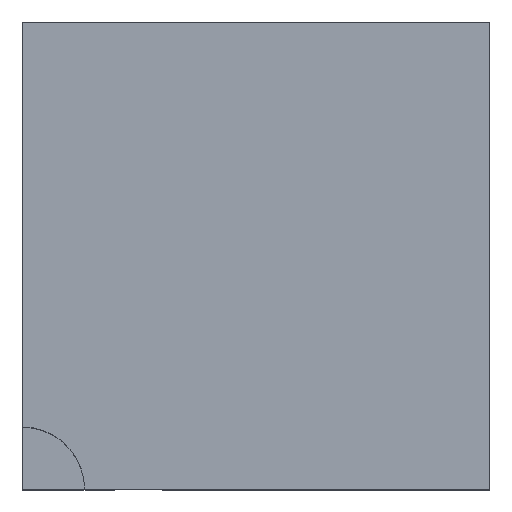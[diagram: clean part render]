
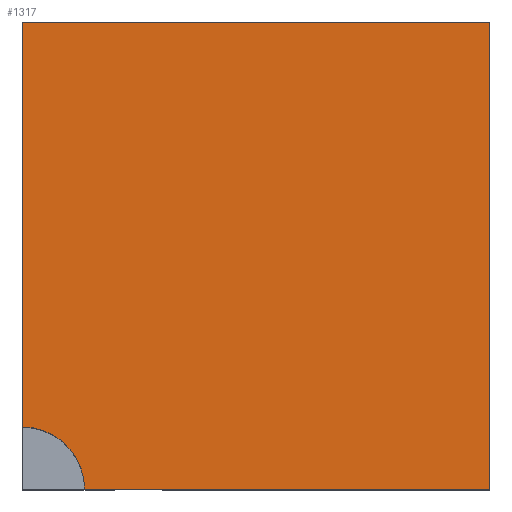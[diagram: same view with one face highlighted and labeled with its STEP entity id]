
A CAD part, top view. The second image highlights one B-rep face of the part: STEP entity #1317.
In plain terms, the highlighted planar face has unit normal (0, 0, 1).
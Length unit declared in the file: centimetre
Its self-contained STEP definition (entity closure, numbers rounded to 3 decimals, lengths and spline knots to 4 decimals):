
#18 = ORIENTED_EDGE ( 'NONE', *, *, #658, .T. ) ;
#40 = ORIENTED_EDGE ( 'NONE', *, *, #252, .T. ) ;
#55 = CARTESIAN_POINT ( 'NONE',  ( 0., 133.1427, 1000. ) ) ;
#76 = VECTOR ( 'NONE', #878, 100. ) ;
#109 = VERTEX_POINT ( 'NONE', #864 ) ;
#123 = FACE_OUTER_BOUND ( 'NONE', #490, .T. ) ;
#174 = CARTESIAN_POINT ( 'NONE',  ( 0., 1000., 1000. ) ) ;
#198 = VERTEX_POINT ( 'NONE', #174 ) ;
#230 = ORIENTED_EDGE ( 'NONE', *, *, #382, .T. ) ;
#236 = VECTOR ( 'NONE', #300, 100. ) ;
#252 = EDGE_CURVE ( 'NONE', #198, #1374, #1372, .T. ) ;
#300 = DIRECTION ( 'NONE',  ( 0., -1., 0. ) ) ;
#362 = PLANE ( 'NONE',  #438 ) ;
#377 = DIRECTION ( 'NONE',  ( 0., 0., 1. ) ) ;
#382 = EDGE_CURVE ( 'NONE', #470, #198, #730, .T. ) ;
#438 = AXIS2_PLACEMENT_3D ( 'NONE', #1225, #377, #862 ) ;
#451 = DIRECTION ( 'NONE',  ( 0., 1., 0. ) ) ;
#470 = VERTEX_POINT ( 'NONE', #1104 ) ;
#490 = EDGE_LOOP ( 'NONE', ( #600, #1406, #18, #230, #40 ) ) ;
#528 = CARTESIAN_POINT ( 'NONE',  ( 0., 0., 1000. ) ) ;
#537 = AXIS2_PLACEMENT_3D ( 'NONE', #1337, #979, #1098 ) ;
#566 = VECTOR ( 'NONE', #857, 100. ) ;
#600 = ORIENTED_EDGE ( 'NONE', *, *, #1215, .F. ) ;
#658 = EDGE_CURVE ( 'NONE', #912, #470, #1568, .T. ) ;
#662 = CARTESIAN_POINT ( 'NONE',  ( 0., 1000., 1000. ) ) ;
#693 = CIRCLE ( 'NONE', #537, 133.1427 ) ;
#730 = LINE ( 'NONE', #997, #566 ) ;
#769 = VECTOR ( 'NONE', #451, 100. ) ;
#813 = EDGE_CURVE ( 'NONE', #109, #912, #1368, .T. ) ;
#857 = DIRECTION ( 'NONE',  ( -1., 0., 0. ) ) ;
#862 = DIRECTION ( 'NONE',  ( 1., 0., 0. ) ) ;
#864 = CARTESIAN_POINT ( 'NONE',  ( 133.1427, 0., 1000. ) ) ;
#878 = DIRECTION ( 'NONE',  ( 1., 0., 0. ) ) ;
#898 = CARTESIAN_POINT ( 'NONE',  ( 1000., 0., 1000. ) ) ;
#912 = VERTEX_POINT ( 'NONE', #898 ) ;
#979 = DIRECTION ( 'NONE',  ( 0., 0., 1. ) ) ;
#997 = CARTESIAN_POINT ( 'NONE',  ( 0., 1000., 1000. ) ) ;
#1051 = CARTESIAN_POINT ( 'NONE',  ( 1000., 1000., 1000. ) ) ;
#1098 = DIRECTION ( 'NONE',  ( 1., 0., 0. ) ) ;
#1104 = CARTESIAN_POINT ( 'NONE',  ( 1000., 1000., 1000. ) ) ;
#1215 = EDGE_CURVE ( 'NONE', #109, #1374, #693, .T. ) ;
#1225 = CARTESIAN_POINT ( 'NONE',  ( 0., 0., 1000. ) ) ;
#1317 = ADVANCED_FACE ( 'NONE', ( #123 ), #362, .T. ) ;
#1337 = CARTESIAN_POINT ( 'NONE',  ( 0., 0., 1000. ) ) ;
#1368 = LINE ( 'NONE', #528, #76 ) ;
#1372 = LINE ( 'NONE', #662, #236 ) ;
#1374 = VERTEX_POINT ( 'NONE', #55 ) ;
#1406 = ORIENTED_EDGE ( 'NONE', *, *, #813, .T. ) ;
#1568 = LINE ( 'NONE', #1051, #769 ) ;
